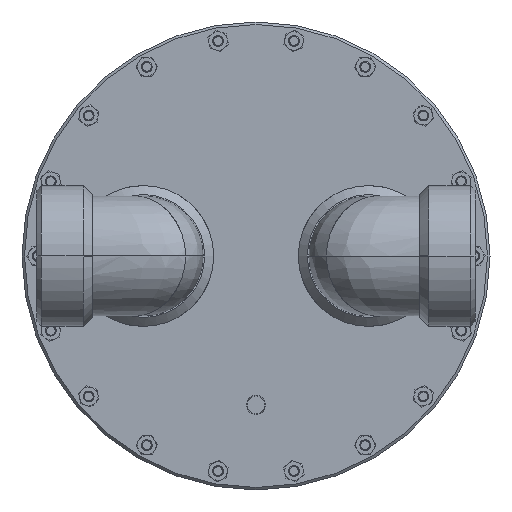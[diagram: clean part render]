
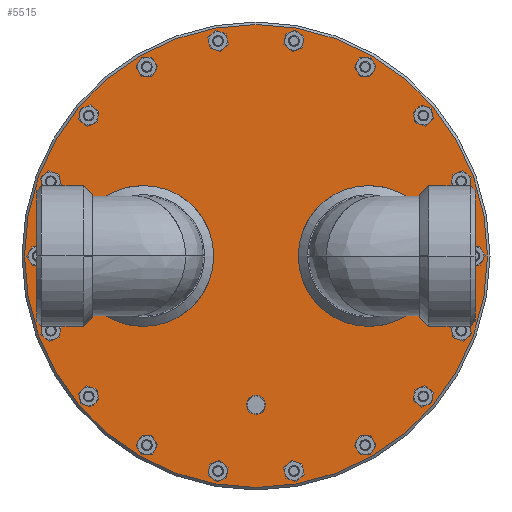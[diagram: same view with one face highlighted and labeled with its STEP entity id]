
A CAD part, front view. The second image highlights one B-rep face of the part: STEP entity #5515.
In plain terms, the highlighted planar face has unit normal (0, -1, 0) as drawn and (0, 0, -1) by its records, which use the part's own axes.
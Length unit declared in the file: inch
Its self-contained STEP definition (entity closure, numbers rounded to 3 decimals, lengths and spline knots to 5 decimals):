
#811=PLANE('',#5947);
#1016=FACE_BOUND('',#1615,.T.);
#1017=FACE_BOUND('',#1616,.T.);
#1018=FACE_BOUND('',#1617,.T.);
#1019=FACE_BOUND('',#1618,.T.);
#1020=FACE_BOUND('',#1619,.T.);
#1021=FACE_BOUND('',#1620,.T.);
#1022=FACE_BOUND('',#1621,.T.);
#1023=FACE_BOUND('',#1622,.T.);
#1024=FACE_BOUND('',#1623,.T.);
#1025=FACE_BOUND('',#1624,.T.);
#1026=FACE_BOUND('',#1625,.T.);
#1027=FACE_BOUND('',#1626,.T.);
#1028=FACE_BOUND('',#1627,.T.);
#1029=FACE_BOUND('',#1628,.T.);
#1030=FACE_BOUND('',#1629,.T.);
#1031=FACE_BOUND('',#1630,.T.);
#1032=FACE_BOUND('',#1631,.T.);
#1033=FACE_BOUND('',#1632,.T.);
#1034=FACE_BOUND('',#1633,.T.);
#1035=FACE_BOUND('',#1634,.T.);
#1036=FACE_BOUND('',#1635,.T.);
#1187=FACE_OUTER_BOUND('',#1614,.T.);
#1614=EDGE_LOOP('',(#4451));
#1615=EDGE_LOOP('',(#4452));
#1616=EDGE_LOOP('',(#4453));
#1617=EDGE_LOOP('',(#4454));
#1618=EDGE_LOOP('',(#4455));
#1619=EDGE_LOOP('',(#4456));
#1620=EDGE_LOOP('',(#4457));
#1621=EDGE_LOOP('',(#4458));
#1622=EDGE_LOOP('',(#4459));
#1623=EDGE_LOOP('',(#4460));
#1624=EDGE_LOOP('',(#4461));
#1625=EDGE_LOOP('',(#4462));
#1626=EDGE_LOOP('',(#4463));
#1627=EDGE_LOOP('',(#4464));
#1628=EDGE_LOOP('',(#4465));
#1629=EDGE_LOOP('',(#4466));
#1630=EDGE_LOOP('',(#4467));
#1631=EDGE_LOOP('',(#4468));
#1632=EDGE_LOOP('',(#4469));
#1633=EDGE_LOOP('',(#4470));
#1634=EDGE_LOOP('',(#4471));
#1635=EDGE_LOOP('',(#4472));
#1983=CIRCLE('',#5946,5.44);
#1984=CIRCLE('',#5948,0.1285);
#1985=CIRCLE('',#5949,0.1285);
#1986=CIRCLE('',#5950,0.1285);
#1987=CIRCLE('',#5951,0.1285);
#1988=CIRCLE('',#5952,0.1285);
#1989=CIRCLE('',#5953,0.1285);
#1990=CIRCLE('',#5954,0.1285);
#1991=CIRCLE('',#5955,0.1285);
#1992=CIRCLE('',#5956,0.1285);
#1993=CIRCLE('',#5957,0.1285);
#1994=CIRCLE('',#5958,0.1285);
#1995=CIRCLE('',#5959,0.1285);
#1996=CIRCLE('',#5960,0.1285);
#1997=CIRCLE('',#5961,0.1285);
#1998=CIRCLE('',#5962,0.1285);
#1999=CIRCLE('',#5963,0.1285);
#2000=CIRCLE('',#5964,0.1285);
#2001=CIRCLE('',#5965,0.1285);
#2002=CIRCLE('',#5966,1.1875);
#2003=CIRCLE('',#5967,1.1875);
#2004=CIRCLE('',#5968,0.22359);
#2656=VERTEX_POINT('',#8180);
#2657=VERTEX_POINT('',#8183);
#2658=VERTEX_POINT('',#8185);
#2659=VERTEX_POINT('',#8187);
#2660=VERTEX_POINT('',#8189);
#2661=VERTEX_POINT('',#8191);
#2662=VERTEX_POINT('',#8193);
#2663=VERTEX_POINT('',#8195);
#2664=VERTEX_POINT('',#8197);
#2665=VERTEX_POINT('',#8199);
#2666=VERTEX_POINT('',#8201);
#2667=VERTEX_POINT('',#8203);
#2668=VERTEX_POINT('',#8205);
#2669=VERTEX_POINT('',#8207);
#2670=VERTEX_POINT('',#8209);
#2671=VERTEX_POINT('',#8211);
#2672=VERTEX_POINT('',#8213);
#2673=VERTEX_POINT('',#8215);
#2674=VERTEX_POINT('',#8217);
#2675=VERTEX_POINT('',#8219);
#2676=VERTEX_POINT('',#8221);
#2677=VERTEX_POINT('',#8223);
#3447=EDGE_CURVE('',#2656,#2656,#1983,.T.);
#3448=EDGE_CURVE('',#2657,#2657,#1984,.T.);
#3449=EDGE_CURVE('',#2658,#2658,#1985,.T.);
#3450=EDGE_CURVE('',#2659,#2659,#1986,.T.);
#3451=EDGE_CURVE('',#2660,#2660,#1987,.T.);
#3452=EDGE_CURVE('',#2661,#2661,#1988,.T.);
#3453=EDGE_CURVE('',#2662,#2662,#1989,.T.);
#3454=EDGE_CURVE('',#2663,#2663,#1990,.T.);
#3455=EDGE_CURVE('',#2664,#2664,#1991,.T.);
#3456=EDGE_CURVE('',#2665,#2665,#1992,.T.);
#3457=EDGE_CURVE('',#2666,#2666,#1993,.T.);
#3458=EDGE_CURVE('',#2667,#2667,#1994,.T.);
#3459=EDGE_CURVE('',#2668,#2668,#1995,.T.);
#3460=EDGE_CURVE('',#2669,#2669,#1996,.T.);
#3461=EDGE_CURVE('',#2670,#2670,#1997,.T.);
#3462=EDGE_CURVE('',#2671,#2671,#1998,.T.);
#3463=EDGE_CURVE('',#2672,#2672,#1999,.T.);
#3464=EDGE_CURVE('',#2673,#2673,#2000,.T.);
#3465=EDGE_CURVE('',#2674,#2674,#2001,.T.);
#3466=EDGE_CURVE('',#2675,#2675,#2002,.T.);
#3467=EDGE_CURVE('',#2676,#2676,#2003,.T.);
#3468=EDGE_CURVE('',#2677,#2677,#2004,.T.);
#4451=ORIENTED_EDGE('',*,*,#3447,.F.);
#4452=ORIENTED_EDGE('',*,*,#3448,.T.);
#4453=ORIENTED_EDGE('',*,*,#3449,.T.);
#4454=ORIENTED_EDGE('',*,*,#3450,.T.);
#4455=ORIENTED_EDGE('',*,*,#3451,.T.);
#4456=ORIENTED_EDGE('',*,*,#3452,.T.);
#4457=ORIENTED_EDGE('',*,*,#3453,.T.);
#4458=ORIENTED_EDGE('',*,*,#3454,.T.);
#4459=ORIENTED_EDGE('',*,*,#3455,.T.);
#4460=ORIENTED_EDGE('',*,*,#3456,.T.);
#4461=ORIENTED_EDGE('',*,*,#3457,.T.);
#4462=ORIENTED_EDGE('',*,*,#3458,.T.);
#4463=ORIENTED_EDGE('',*,*,#3459,.T.);
#4464=ORIENTED_EDGE('',*,*,#3460,.T.);
#4465=ORIENTED_EDGE('',*,*,#3461,.T.);
#4466=ORIENTED_EDGE('',*,*,#3462,.T.);
#4467=ORIENTED_EDGE('',*,*,#3463,.T.);
#4468=ORIENTED_EDGE('',*,*,#3464,.T.);
#4469=ORIENTED_EDGE('',*,*,#3465,.T.);
#4470=ORIENTED_EDGE('',*,*,#3466,.T.);
#4471=ORIENTED_EDGE('',*,*,#3467,.T.);
#4472=ORIENTED_EDGE('',*,*,#3468,.T.);
#5515=ADVANCED_FACE('',(#1187,#1016,#1017,#1018,#1019,#1020,#1021,#1022,
#1023,#1024,#1025,#1026,#1027,#1028,#1029,#1030,#1031,#1032,#1033,#1034,
#1035,#1036),#811,.T.);
#5946=AXIS2_PLACEMENT_3D('',#8181,#6881,#6882);
#5947=AXIS2_PLACEMENT_3D('',#8182,#6883,#6884);
#5948=AXIS2_PLACEMENT_3D('',#8184,#6885,#6886);
#5949=AXIS2_PLACEMENT_3D('',#8186,#6887,#6888);
#5950=AXIS2_PLACEMENT_3D('',#8188,#6889,#6890);
#5951=AXIS2_PLACEMENT_3D('',#8190,#6891,#6892);
#5952=AXIS2_PLACEMENT_3D('',#8192,#6893,#6894);
#5953=AXIS2_PLACEMENT_3D('',#8194,#6895,#6896);
#5954=AXIS2_PLACEMENT_3D('',#8196,#6897,#6898);
#5955=AXIS2_PLACEMENT_3D('',#8198,#6899,#6900);
#5956=AXIS2_PLACEMENT_3D('',#8200,#6901,#6902);
#5957=AXIS2_PLACEMENT_3D('',#8202,#6903,#6904);
#5958=AXIS2_PLACEMENT_3D('',#8204,#6905,#6906);
#5959=AXIS2_PLACEMENT_3D('',#8206,#6907,#6908);
#5960=AXIS2_PLACEMENT_3D('',#8208,#6909,#6910);
#5961=AXIS2_PLACEMENT_3D('',#8210,#6911,#6912);
#5962=AXIS2_PLACEMENT_3D('',#8212,#6913,#6914);
#5963=AXIS2_PLACEMENT_3D('',#8214,#6915,#6916);
#5964=AXIS2_PLACEMENT_3D('',#8216,#6917,#6918);
#5965=AXIS2_PLACEMENT_3D('',#8218,#6919,#6920);
#5966=AXIS2_PLACEMENT_3D('',#8220,#6921,#6922);
#5967=AXIS2_PLACEMENT_3D('',#8222,#6923,#6924);
#5968=AXIS2_PLACEMENT_3D('',#8224,#6925,#6926);
#6881=DIRECTION('center_axis',(0.,0.,1.));
#6882=DIRECTION('ref_axis',(-1.,0.,0.));
#6883=DIRECTION('center_axis',(0.,0.,-1.));
#6884=DIRECTION('ref_axis',(-1.,0.,0.));
#6885=DIRECTION('center_axis',(0.,0.,1.));
#6886=DIRECTION('ref_axis',(1.,0.,0.));
#6887=DIRECTION('center_axis',(0.,0.,1.));
#6888=DIRECTION('ref_axis',(1.,0.,0.));
#6889=DIRECTION('center_axis',(0.,0.,1.));
#6890=DIRECTION('ref_axis',(1.,0.,0.));
#6891=DIRECTION('center_axis',(0.,0.,1.));
#6892=DIRECTION('ref_axis',(1.,0.,0.));
#6893=DIRECTION('center_axis',(0.,0.,1.));
#6894=DIRECTION('ref_axis',(1.,0.,0.));
#6895=DIRECTION('center_axis',(0.,0.,1.));
#6896=DIRECTION('ref_axis',(1.,0.,0.));
#6897=DIRECTION('center_axis',(0.,0.,1.));
#6898=DIRECTION('ref_axis',(1.,0.,0.));
#6899=DIRECTION('center_axis',(0.,0.,1.));
#6900=DIRECTION('ref_axis',(1.,0.,0.));
#6901=DIRECTION('center_axis',(0.,0.,1.));
#6902=DIRECTION('ref_axis',(1.,0.,0.));
#6903=DIRECTION('center_axis',(0.,0.,1.));
#6904=DIRECTION('ref_axis',(1.,0.,0.));
#6905=DIRECTION('center_axis',(0.,0.,1.));
#6906=DIRECTION('ref_axis',(1.,0.,0.));
#6907=DIRECTION('center_axis',(0.,0.,1.));
#6908=DIRECTION('ref_axis',(1.,0.,0.));
#6909=DIRECTION('center_axis',(0.,0.,1.));
#6910=DIRECTION('ref_axis',(1.,0.,0.));
#6911=DIRECTION('center_axis',(0.,0.,1.));
#6912=DIRECTION('ref_axis',(1.,0.,0.));
#6913=DIRECTION('center_axis',(0.,0.,1.));
#6914=DIRECTION('ref_axis',(1.,0.,0.));
#6915=DIRECTION('center_axis',(0.,0.,1.));
#6916=DIRECTION('ref_axis',(1.,0.,0.));
#6917=DIRECTION('center_axis',(0.,0.,1.));
#6918=DIRECTION('ref_axis',(1.,0.,0.));
#6919=DIRECTION('center_axis',(0.,0.,1.));
#6920=DIRECTION('ref_axis',(1.,0.,0.));
#6921=DIRECTION('center_axis',(0.,0.,1.));
#6922=DIRECTION('ref_axis',(-1.,0.,0.));
#6923=DIRECTION('center_axis',(0.,0.,1.));
#6924=DIRECTION('ref_axis',(-1.,0.,0.));
#6925=DIRECTION('center_axis',(0.,0.,1.));
#6926=DIRECTION('ref_axis',(-1.,0.,0.));
#8180=CARTESIAN_POINT('',(5.44,0.,0.));
#8181=CARTESIAN_POINT('Origin',(0.,0.,0.));
#8182=CARTESIAN_POINT('Origin',(0.,0.,0.));
#8183=CARTESIAN_POINT('',(5.0045,0.,0.));
#8184=CARTESIAN_POINT('Origin',(5.133,0.,0.));
#8185=CARTESIAN_POINT('',(4.69494,1.75559,0.));
#8186=CARTESIAN_POINT('Origin',(4.82344,1.75559,0.));
#8187=CARTESIAN_POINT('',(3.80361,3.29943,0.));
#8188=CARTESIAN_POINT('Origin',(3.93211,3.29943,0.));
#8189=CARTESIAN_POINT('',(2.438,4.44531,0.));
#8190=CARTESIAN_POINT('Origin',(2.5665,4.44531,0.));
#8191=CARTESIAN_POINT('',(0.76284,5.05502,0.));
#8192=CARTESIAN_POINT('Origin',(0.89134,5.05502,0.));
#8193=CARTESIAN_POINT('',(-1.01984,5.05502,0.));
#8194=CARTESIAN_POINT('Origin',(-0.89134,5.05502,0.));
#8195=CARTESIAN_POINT('',(-2.695,4.44531,0.));
#8196=CARTESIAN_POINT('Origin',(-2.5665,4.44531,0.));
#8197=CARTESIAN_POINT('',(-4.06061,3.29943,0.));
#8198=CARTESIAN_POINT('Origin',(-3.93211,3.29943,0.));
#8199=CARTESIAN_POINT('',(-4.95194,1.75559,0.));
#8200=CARTESIAN_POINT('Origin',(-4.82344,1.75559,0.));
#8201=CARTESIAN_POINT('',(-5.2615,0.,0.));
#8202=CARTESIAN_POINT('Origin',(-5.133,0.,0.));
#8203=CARTESIAN_POINT('',(-4.95194,-1.75559,0.));
#8204=CARTESIAN_POINT('Origin',(-4.82344,-1.75559,0.));
#8205=CARTESIAN_POINT('',(-4.06061,-3.29943,0.));
#8206=CARTESIAN_POINT('Origin',(-3.93211,-3.29943,0.));
#8207=CARTESIAN_POINT('',(4.69494,-1.75559,0.));
#8208=CARTESIAN_POINT('Origin',(4.82344,-1.75559,0.));
#8209=CARTESIAN_POINT('',(3.80361,-3.29943,0.));
#8210=CARTESIAN_POINT('Origin',(3.93211,-3.29943,0.));
#8211=CARTESIAN_POINT('',(2.438,-4.44531,0.));
#8212=CARTESIAN_POINT('Origin',(2.5665,-4.44531,0.));
#8213=CARTESIAN_POINT('',(0.76284,-5.05502,0.));
#8214=CARTESIAN_POINT('Origin',(0.89134,-5.05502,0.));
#8215=CARTESIAN_POINT('',(-1.01984,-5.05502,0.));
#8216=CARTESIAN_POINT('Origin',(-0.89134,-5.05502,0.));
#8217=CARTESIAN_POINT('',(-2.695,-4.44531,0.));
#8218=CARTESIAN_POINT('Origin',(-2.5665,-4.44531,0.));
#8219=CARTESIAN_POINT('',(-1.4625,0.,0.));
#8220=CARTESIAN_POINT('Origin',(-2.65,0.,0.));
#8221=CARTESIAN_POINT('',(3.8375,0.,0.));
#8222=CARTESIAN_POINT('Origin',(2.65,0.,0.));
#8223=CARTESIAN_POINT('',(-0.22359,3.5,0.));
#8224=CARTESIAN_POINT('Origin',(0.,3.5,0.));
